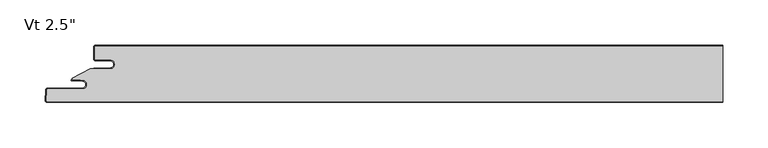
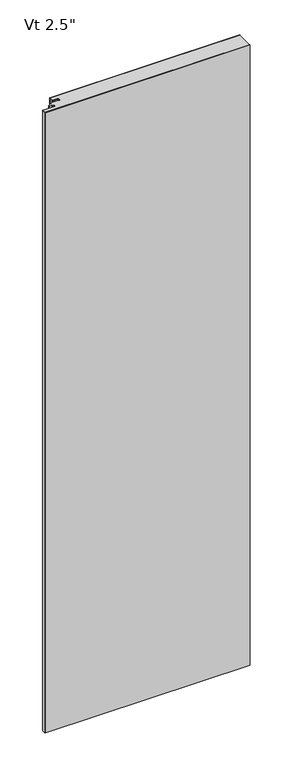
"""IFC4 building model written with IfcOpenShell, lengths in millimetres: plate geometry."""

import ifcopenshell
import ifcopenshell.guid

model = None  # the IFC model being written
_history = None  # IfcOwnerHistory: only IFC2X3 demands one
_inside = {}  # id of a spatial element -> (the spatial element, [elements in it])
_under = {}  # id of a project, library or spatial element -> (it, [spatial elements below it])
_declared = {}  # id of a project -> (the project, [libraries it declares])
_typed = {}  # id of a type object -> (the type object, [elements of that type])
_made_of = {}  # id of a material, layer set ... -> (it, [elements and type objects made of it])


def new_model(schema):
    """Start an empty IFC model of exactly this schema.

    Asked for "IFC4X3", IfcOpenShell would pick the latest addendum, in which some entities
    have other attributes; the version numbers below select the first issue.
    IFC2X3 requires an IfcOwnerHistory on every rooted entity: one is made here for all.
    """
    global model, _history
    if schema == "IFC4X3":
        model = ifcopenshell.file(schema_version=(4, 3, 0, 0))
    else:
        model = ifcopenshell.file(schema=schema)
    _inside.clear()
    _under.clear()
    _declared.clear()
    _typed.clear()
    _made_of.clear()
    _history = None
    if model.schema == "IFC2X3":
        org = make("IfcOrganization", Name="unknown")
        user = make(
            "IfcPersonAndOrganization",
            ThePerson=make("IfcPerson", FamilyName="unknown"),
            TheOrganization=org,
        )
        app = make(
            "IfcApplication",
            ApplicationDeveloper=org,
            Version="unknown",
            ApplicationFullName="unknown",
            ApplicationIdentifier="unknown",
        )
        _history = make(
            "IfcOwnerHistory",
            OwningUser=user,
            OwningApplication=app,
            ChangeAction="ADDED",
            CreationDate=0,
        )
    return model


def make(cls, **values):
    """One entity of the class cls with the attributes given. An attribute that is None is left unset."""
    return model.create_entity(
        cls, **{name: value for name, value in values.items() if value is not None}
    )


def rooted(cls, **values):
    """An entity with a GlobalId (a new one), such as an element, a storey or a relation."""
    return make(cls, GlobalId=ifcopenshell.guid.new(), OwnerHistory=_history, **values)


def si_unit(unit_type, name, prefix=None):
    """IfcSIUnit, for example si_unit("LENGTHUNIT", "METRE", prefix="MILLI")."""
    return make("IfcSIUnit", UnitType=unit_type, Prefix=prefix, Name=name)


def assignment(units):
    """IfcUnitAssignment: the units of a project."""
    return None if units is None else make("IfcUnitAssignment", Units=units)


def point(xyz):
    """IfcCartesianPoint."""
    return None if xyz is None else make("IfcCartesianPoint", Coordinates=xyz)


def direction(xyz):
    """IfcDirection."""
    return None if xyz is None else make("IfcDirection", DirectionRatios=xyz)


def frame(location, z_axis=None, x_axis=None):
    """IfcAxis2Placement3D, a coordinate frame: its origin and axes. An axis left out is left unset."""
    return make(
        "IfcAxis2Placement3D",
        Location=point(location),
        Axis=direction(z_axis),
        RefDirection=direction(x_axis),
    )


def frame_2d(location, x_axis=None):
    """IfcAxis2Placement2D, a coordinate frame in the plane: its origin and x axis."""
    return make(
        "IfcAxis2Placement2D", Location=point(location), RefDirection=direction(x_axis)
    )


def origin():
    """The frame at (0, 0, 0) with its axes left unset."""
    return frame((0.0, 0.0, 0.0))


def origin_with_axes():
    """The frame at (0, 0, 0) with the z axis (0, 0, 1) and the x axis (1, 0, 0) written out."""
    return frame((0.0, 0.0, 0.0), z_axis=(0.0, 0.0, 1.0), x_axis=(1.0, 0.0, 0.0))


def place(relative_to, where):
    """IfcLocalPlacement: puts the frame where relative to a parent placement (None: the world)."""
    return make(
        "IfcLocalPlacement", PlacementRelTo=relative_to, RelativePlacement=where
    )


def context(
    kind, dimensions, precision=None, world=None, true_north=None, identifier=None
):
    """IfcGeometricRepresentationContext, for example the 3D "Model" context."""
    return make(
        "IfcGeometricRepresentationContext",
        ContextIdentifier=identifier,
        ContextType=kind,
        CoordinateSpaceDimension=dimensions,
        Precision=precision,
        WorldCoordinateSystem=world,
        TrueNorth=true_north,
    )


def project(units=None, contexts=None):
    """IfcProject with its units and contexts."""
    return rooted(
        "IfcProject",
        Name="project",
        RepresentationContexts=contexts,
        UnitsInContext=assignment(units),
    )


def spatial(cls, under=None, at=None, **own):
    """A site, building, storey or space (cls), placed at a placement, below another one or the project."""
    s = rooted(cls, ObjectPlacement=at, **own)
    if under is not None:
        _under.setdefault(under.id(), (under, []))[1].append(s)
    return s


def polyline(points):
    """IfcPolyline through the points."""
    return make("IfcPolyline", Points=[point(p) for p in points])


def circle_curve(where, radius):
    """IfcCircle in the frame where."""
    return make("IfcCircle", Position=where, Radius=radius)


def trimmed(basis, trim1, trim2, sense, master):
    """IfcTrimmedCurve: the piece of a basis curve between two trims."""
    return make(
        "IfcTrimmedCurve",
        BasisCurve=basis,
        Trim1=trim1,
        Trim2=trim2,
        SenseAgreement=sense,
        MasterRepresentation=master,
    )


def segment(curve, same_sense, transition):
    """IfcCompositeCurveSegment."""
    return make(
        "IfcCompositeCurveSegment",
        Transition=transition,
        SameSense=same_sense,
        ParentCurve=curve,
    )


def composite_curve(segments, self_intersect=None):
    """IfcCompositeCurve: segments joined end to end."""
    return make("IfcCompositeCurve", Segments=segments, SelfIntersect=self_intersect)


def outline(outer, holes=None, kind="AREA"):
    """IfcArbitraryClosedProfileDef: a profile drawn as a closed curve; with holes, ...WithVoids."""
    if holes is None:
        return make("IfcArbitraryClosedProfileDef", ProfileType=kind, OuterCurve=outer)
    return make(
        "IfcArbitraryProfileDefWithVoids",
        ProfileType=kind,
        OuterCurve=outer,
        InnerCurves=holes,
    )


def extrude(swept, where, along, depth):
    """IfcExtrudedAreaSolid: the profile swept, set in the frame where, extruded along a direction by depth."""
    return make(
        "IfcExtrudedAreaSolid",
        SweptArea=swept,
        Position=where,
        ExtrudedDirection=direction(along),
        Depth=depth,
    )


def shape(context_of_items, identifier, shape_type, items):
    """IfcShapeRepresentation: the items that make up one representation, for example the "Body"."""
    return make(
        "IfcShapeRepresentation",
        ContextOfItems=context_of_items,
        RepresentationIdentifier=identifier,
        RepresentationType=shape_type,
        Items=items,
    )


def source(mapping_origin, context_of_items, identifier, shape_type, items):
    """IfcRepresentationMap: a shape defined once, which mapped items show again and again."""
    return make(
        "IfcRepresentationMap",
        MappingOrigin=mapping_origin,
        MappedRepresentation=shape(context_of_items, identifier, shape_type, items),
    )


def transform(
    local_origin,
    x_axis=None,
    y_axis=None,
    z_axis=None,
    scale=None,
    scale2=None,
    scale3=None,
    uniform=True,
):
    """IfcCartesianTransformationOperator3D, or its non-uniform kind. x_axis, y_axis, z_axis: its Axis1, 2, 3."""
    if uniform:
        return make(
            "IfcCartesianTransformationOperator3D",
            Axis1=direction(x_axis),
            Axis2=direction(y_axis),
            LocalOrigin=point(local_origin),
            Scale=scale,
            Axis3=direction(z_axis),
        )
    return make(
        "IfcCartesianTransformationOperator3DnonUniform",
        Axis1=direction(x_axis),
        Axis2=direction(y_axis),
        LocalOrigin=point(local_origin),
        Scale=scale,
        Axis3=direction(z_axis),
        Scale2=scale2,
        Scale3=scale3,
    )


def mapped(mapping_source, mapping_target):
    """IfcMappedItem: shows the shape of a source again, moved by a transform."""
    return make(
        "IfcMappedItem", MappingSource=mapping_source, MappingTarget=mapping_target
    )


def made_of(thing, what):
    """Note that an element or type object is made of a material, layer set ...; save() writes the relation."""
    if what is not None:
        _made_of.setdefault(what.id(), (what, []))[1].append(thing)
    return thing


def element(
    cls,
    number,
    at=None,
    inside=None,
    cuts=None,
    type_object=None,
    material=None,
    context=None,
    identifier="Body",
    shape_type=None,
    held_by="IfcProductDefinitionShape",
    body=None,
    shapes=None,
    **own,
):
    """One element of the class cls, such as IfcWall. Its Tag is "e" and its number.

    at: its placement. inside: the storey or other place that contains it. cuts: it is an
    opening in that element (IfcRelVoidsElement). A single representation is given by context,
    identifier, shape_type and body (its items); several are given by shapes. held_by: the class
    of the entity that holds the representations. save() writes the other relations.
    """
    e = rooted(cls, Tag="e%d" % number, ObjectPlacement=at, **own)
    if body is not None:
        shapes = [shape(context, identifier, shape_type, body)]
    if shapes is not None:
        e.Representation = make(held_by, Representations=shapes)
    if inside is not None:
        _inside.setdefault(inside.id(), (inside, []))[1].append(e)
    if cuts is not None:
        rooted(
            "IfcRelVoidsElement", RelatingBuildingElement=cuts, RelatedOpeningElement=e
        )
    if type_object is not None:
        _typed.setdefault(type_object.id(), (type_object, []))[1].append(e)
    return made_of(e, material)


def aggregate(whole, parts):
    """IfcRelAggregates: a whole, such as a stair, and the parts it consists of."""
    return rooted("IfcRelAggregates", RelatingObject=whole, RelatedObjects=parts)


def save(model, path):
    """Write the relations noted so far, then the file.

    IfcRelAggregates (storeys below a building ...), IfcRelContainedInSpatialStructure (elements
    in a storey), IfcRelDefinesByType, IfcRelAssociatesMaterial and IfcRelDeclares: one each for
    every whole, place, type object, material and project.
    """
    for whole, parts in _under.values():
        aggregate(whole, parts)
    for where, things in _inside.values():
        rooted(
            "IfcRelContainedInSpatialStructure",
            RelatedElements=things,
            RelatingStructure=where,
        )
    for kind, things in _typed.values():
        rooted("IfcRelDefinesByType", RelatedObjects=things, RelatingType=kind)
    for what, things in _made_of.values():
        rooted("IfcRelAssociatesMaterial", RelatedObjects=things, RelatingMaterial=what)
    for by, libraries in _declared.values():
        rooted("IfcRelDeclares", RelatingContext=by, RelatedDefinitions=libraries)
    model.write(path)


def plate_bc00b1ae(model_context):
    return source(origin(), model_context, "Body", "SweptSolid", [
        extrude(outline(composite_curve([segment(polyline([(-329.9499998, -16.4625), (-345.8249998, -16.4625)]), True, "CONTINUOUS"), segment(trimmed(circle_curve(frame_2d((-345.8249998, -15.08125)), 1.38125), [point((-345.8249998, -16.4625))], [point((-347.2062498, -15.08125))], False, "CARTESIAN"), True, "CONTINUOUS"), segment(polyline([(-347.2062498, -15.08125), (-347.2062498, -2.38125)]), True, "CONTINUOUS"), segment(trimmed(circle_curve(frame_2d((-345.8249998, -2.38125)), 1.38125), [point((-347.2062498, -2.38125))], [point((-345.8249998, -1.0))], False, "CARTESIAN"), True, "CONTINUOUS"), segment(polyline([(-345.8249998, -1.0), (348.9999998, -1.0), (348.9999998, -62.5), (-399.6862034, -62.5)]), True, "CONTINUOUS"), segment(trimmed(circle_curve(frame_2d((-399.6862034, -61.11875)), 1.38125), [point((-399.6862034, -62.5))], [point((-401.0655604, -61.046461))], False, "CARTESIAN"), True, "CONTINUOUS"), segment(polyline([(-401.0655604, -61.046461), (-400.483179, -49.933961)]), True, "CONTINUOUS"), segment(trimmed(circle_curve(frame_2d((-399.1038219, -50.00625)), 1.38125), [point((-400.483179, -49.933961))], [point((-399.1038219, -48.625))], False, "CARTESIAN"), True, "CONTINUOUS"), segment(polyline([(-399.1038219, -48.625), (-360.9205173, -48.625)]), True, "CONTINUOUS"), segment(trimmed(circle_curve(frame_2d((-360.9205173, -43.65625)), 4.96875), [point((-360.9205173, -48.625))], [point((-360.9205173, -38.6875))], True, "CARTESIAN"), True, "CONTINUOUS"), segment(polyline([(-360.9205173, -38.6875), (-362.5080173, -38.89375), (-362.5080173, -38.1), (-372.0187498, -38.1), (-372.0187498, -36.5326309), (-352.1323421, -26.4), (-329.9499998, -26.4)]), True, "CONTINUOUS"), segment(trimmed(circle_curve(frame_2d((-329.9499998, -21.43125)), 4.96875), [point((-329.9499998, -26.4))], [point((-329.9499998, -16.4625))], True, "CARTESIAN"), True, "CONTINUOUS")], self_intersect=False)), origin_with_axes(), (0.0, 0.0, 1.0), 2400.0),
        extrude(outline(composite_curve([segment(polyline([(-348.2062498, -25.4), (-329.9499998, -25.4)]), True, "CONTINUOUS"), segment(trimmed(circle_curve(frame_2d((-329.9499998, -21.43125)), 3.96875), [point((-329.9499998, -25.4))], [point((-329.9499998, -17.4625))], True, "CARTESIAN"), True, "CONTINUOUS"), segment(polyline([(-329.9499998, -17.4625), (-345.8249998, -17.4625)]), True, "CONTINUOUS"), segment(trimmed(circle_curve(frame_2d((-345.8249998, -15.08125)), 2.38125), [point((-345.8249998, -17.4625))], [point((-348.2062498, -15.08125))], False, "CARTESIAN"), True, "CONTINUOUS"), segment(polyline([(-348.2062498, -15.08125), (-348.2062498, -2.38125)]), True, "CONTINUOUS"), segment(trimmed(circle_curve(frame_2d((-345.8249998, -2.38125)), 2.38125), [point((-348.2062498, -2.38125))], [point((-345.8249998, 0.0))], False, "CARTESIAN"), True, "CONTINUOUS"), segment(polyline([(-345.8249998, 0.0), (348.9999998, 0.0), (348.9999998, -1.0), (-345.8249998, -1.0)]), True, "CONTINUOUS"), segment(trimmed(circle_curve(frame_2d((-345.8249998, -2.38125)), 1.38125), [point((-345.8249998, -1.0))], [point((-347.2062498, -2.38125))], True, "CARTESIAN"), True, "CONTINUOUS"), segment(polyline([(-347.2062498, -2.38125), (-347.2062498, -15.08125)]), True, "CONTINUOUS"), segment(trimmed(circle_curve(frame_2d((-345.8249998, -15.08125)), 1.38125), [point((-347.2062498, -15.08125))], [point((-345.8249998, -16.4625))], True, "CARTESIAN"), True, "CONTINUOUS"), segment(polyline([(-345.8249998, -16.4625), (-329.9499998, -16.4625)]), True, "CONTINUOUS"), segment(trimmed(circle_curve(frame_2d((-329.9499998, -21.43125)), 4.96875), [point((-329.9499998, -16.4625))], [point((-329.9499998, -26.4))], False, "CARTESIAN"), True, "CONTINUOUS"), segment(polyline([(-329.9499998, -26.4), (-348.2062498, -26.4), (-348.2062498, -25.4)]), True, "CONTINUOUS")], self_intersect=False)), origin_with_axes(), (0.0, 0.0, 1.0), 2400.0),
        extrude(outline(composite_curve([segment(polyline([(-372.2314548, -38.1), (-362.5080173, -38.1), (-362.5080173, -38.89375), (-360.9205173, -38.6875)]), True, "CONTINUOUS"), segment(trimmed(circle_curve(frame_2d((-360.9205173, -43.65625)), 4.96875), [point((-360.9205173, -38.6875))], [point((-360.9205173, -48.625))], False, "CARTESIAN"), True, "CONTINUOUS"), segment(polyline([(-360.9205173, -48.625), (-399.1038219, -48.625)]), True, "CONTINUOUS"), segment(trimmed(circle_curve(frame_2d((-399.1038219, -50.00625)), 1.38125), [point((-399.1038219, -48.625))], [point((-400.483179, -49.933961))], True, "CARTESIAN"), True, "CONTINUOUS"), segment(polyline([(-400.483179, -49.933961), (-401.0655604, -61.046461)]), True, "CONTINUOUS"), segment(trimmed(circle_curve(frame_2d((-399.6862034, -61.11875)), 1.38125), [point((-401.0655604, -61.046461))], [point((-399.6862034, -62.5))], True, "CARTESIAN"), True, "CONTINUOUS"), segment(polyline([(-399.6862034, -62.5), (348.9999998, -62.5), (348.9999998, -63.5), (-399.6862034, -63.5)]), True, "CONTINUOUS"), segment(trimmed(circle_curve(frame_2d((-399.6862034, -61.11875)), 2.38125), [point((-399.6862034, -63.5))], [point((-402.0641899, -60.994125))], False, "CARTESIAN"), True, "CONTINUOUS"), segment(polyline([(-402.0641899, -60.994125), (-401.4818085, -49.881625)]), True, "CONTINUOUS"), segment(trimmed(circle_curve(frame_2d((-399.1038219, -50.00625)), 2.38125), [point((-401.4818085, -49.881625))], [point((-399.1038219, -47.625))], False, "CARTESIAN"), True, "CONTINUOUS"), segment(polyline([(-399.1038219, -47.625), (-360.9205173, -47.625)]), True, "CONTINUOUS"), segment(trimmed(circle_curve(frame_2d((-360.9205173, -43.65625)), 3.96875), [point((-360.9205173, -47.625))], [point((-360.9205173, -39.6875))], True, "CARTESIAN"), True, "CONTINUOUS"), segment(polyline([(-360.9205173, -39.6875), (-372.2314548, -39.6875)]), True, "CONTINUOUS"), segment(trimmed(circle_curve(frame_2d((-372.2314548, -38.89375)), 0.79375), [point((-372.2314548, -39.6875))], [point((-372.2314548, -38.1))], False, "CARTESIAN"), True, "CONTINUOUS")], self_intersect=False)), origin_with_axes(), (0.0, 0.0, 1.0), 2400.0),
    ])


if __name__ == "__main__":
    model = new_model("IFC4")
    model_context = context("Model", 3, world=origin())
    ifc_project = project(units=[si_unit("LENGTHUNIT", "METRE", prefix="MILLI")], contexts=[model_context])
    site = spatial("IfcSite", under=ifc_project)
    building = spatial("IfcBuilding", under=site)
    placement = place(None, origin())
    plate_shape = plate_bc00b1ae(model_context)
    element("IfcPlate", 1, ObjectType="KIP-30-DWTR-R19-CP-Vt-F : Vt 2.5\"", at=placement, inside=building, context=model_context, shape_type="MappedRepresentation", body=[
        mapped(plate_shape, transform((0.0, 0.0, 0.0), x_axis=(1.0, 0.0, 0.0), y_axis=(0.0, 1.0, 0.0), z_axis=(0.0, 0.0, 1.0))),
    ])
    save(model, "model.ifc")
